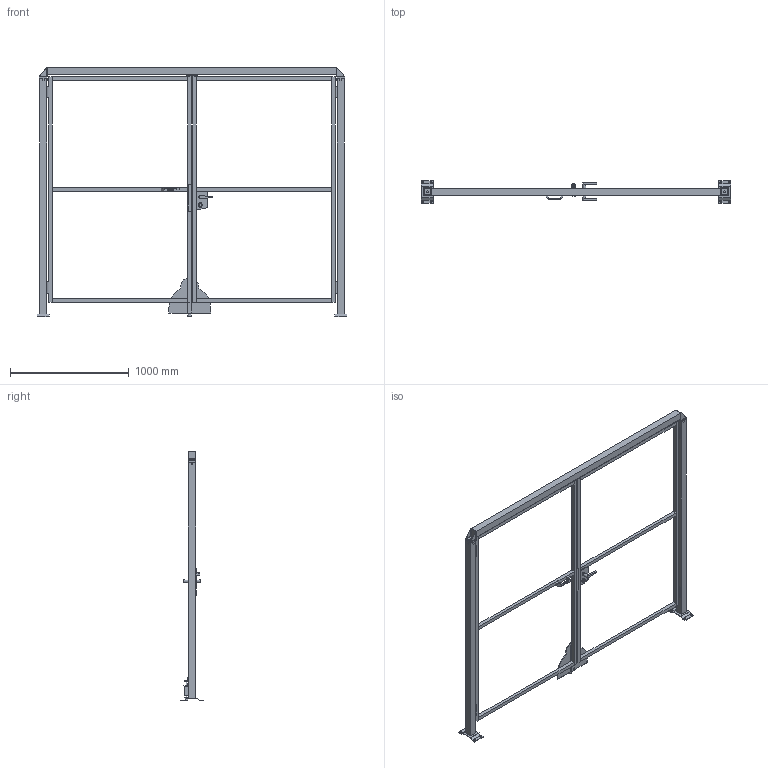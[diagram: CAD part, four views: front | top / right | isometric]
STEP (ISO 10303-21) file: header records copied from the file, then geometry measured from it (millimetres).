
FILE_DESCRIPTION(/* description */ (''),/* implementation_level */ '2;1');
FILE_NAME(/* name */ 'C:\SafeGuarding\ELABORATI\VZOR§GAMMA_2025-02-03-11-04-21.stp',/* time_stamp */ '2025-02-03T11:04:27+01:00',/* author */ ('admin'),/* organization */ (''),/* preprocessor_version */ 'ST-DEVELOPER v18.1',/* originating_system */ 'AutoCAD Mechanical',/* authorisation */ '');
FILE_SCHEMA (('AUTOMOTIVE_DESIGN { 1 0 10303 214 3 1 1 }'));
Length unit declared in the file: millimetre
Products named in the file (5): Product; *U4; DATI_PORTA; P_VFMA.ME60SDU.2020; R_VFPA.REPE30.12001900
Assembly tree (6 placements, depth 2):
  Product
    R_VFPA.REPE30.12001900  x2
    P_VFMA.ME60SDU.2020  x2
    *U4
    DATI_PORTA
Bounding box: 2605 x 192 x 2100.5 mm (x, y, z)
Volume: 38041669.5 mm3; surface area: 3996983.9 mm2
Topology: 40 solids, 51 shells, 473 faces, 1473 edges, 1412 vertices
Faces by surface type: plane 397, cylinder 71, bspline 4, cone 1
Full cylindrical faces by diameter (mm): 11 x25, 14 x2, 24 x1, 25 x2, 25.398 x2
Entity records: 14682 total; most frequent: CARTESIAN_POINT 4084, DIRECTION 2067, ORIENTED_EDGE 1924, EDGE_CURVE 1011, LINE 885, VECTOR 885, VERTEX_POINT 710, AXIS2_PLACEMENT_3D 591
